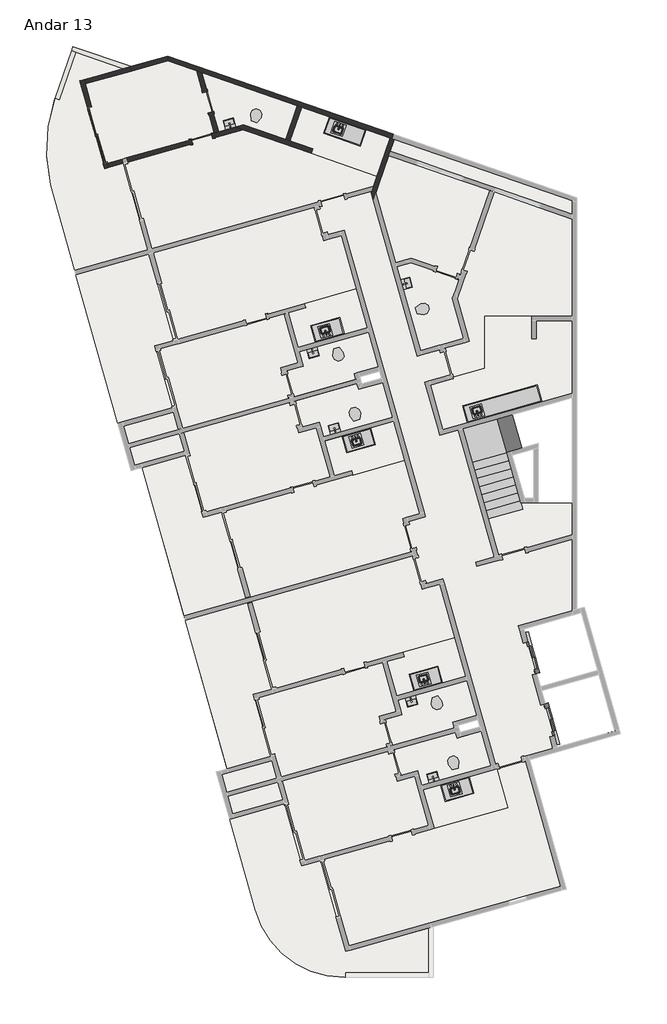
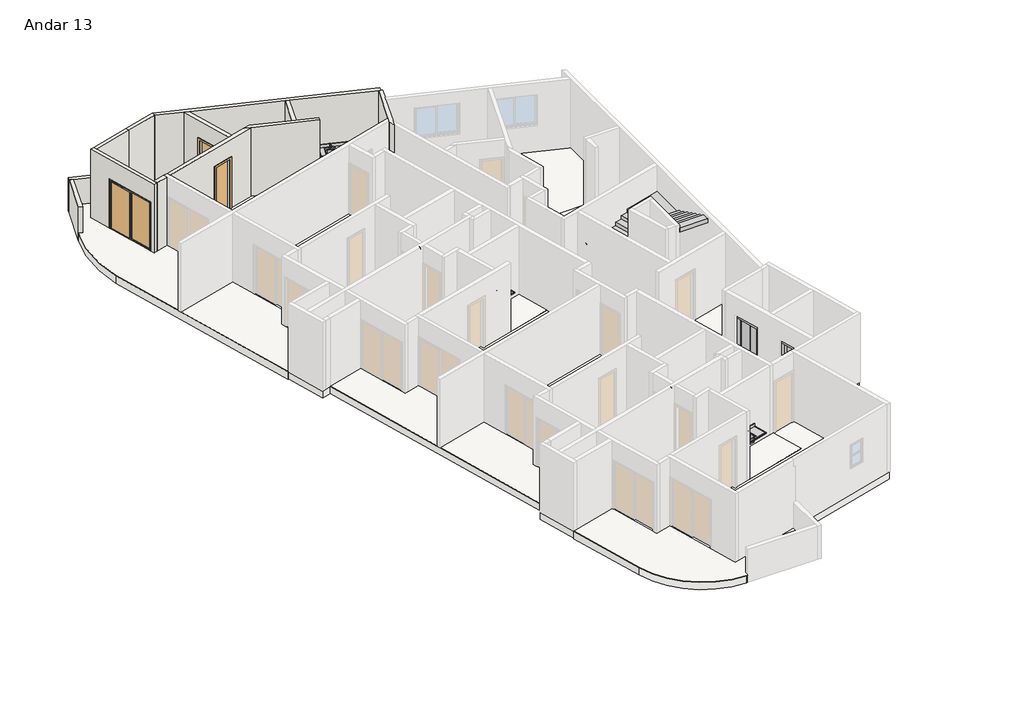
# One storey, part 3 of 3: 18 flow terminals, 18 slabs, 12 walls, 8 proxies, 3 doors, 1 stair flight.
"""IFC4 building model written with IfcOpenShell, lengths in millimetres."""

from ifc_helpers import new_model, si_unit, point, frame, frame_2d, origin, place, context, project, spatial, polyline, circle_curve, trimmed, segment, composite_curve, outline, extrude, faceted_brep, transform, mapped, element, save
from components import specialty_equipment_6c35da8b, specialty_equipment_77dfa124, rf_bancada_cozinha_rf_bancada_cozinha_340fef9f, rf_bancada_cozinha_rf_bancada_cozinha_cfb88ba1, rf_bancada_cozinha_rf_bancada_cozinha_2f873929, rf_bancada_cozinha_rf_bancada_cozinha_798ceddf, p3_70cm_ef4d15e3, p3_70cm_0a698c7c, p4_correr_200cm_eaaa0877, flow_terminal_cab7bae2, flow_terminal_3fb7dc42, flow_terminal_e42b9071, flow_terminal_c6e042c4, ap_01_creme_cr37_13e02e03, ap_01_creme_cr37_5ce6e54d

model = new_model("IFC4")

# Units and contexts
model_context = context("Model", 3, world=origin())
ifc_project = project(units=[si_unit("LENGTHUNIT", "METRE", prefix="MILLI")], contexts=[model_context])

# Site, building, storey
site = spatial("IfcSite", under=ifc_project)
building = spatial("IfcBuilding", under=site)
storey = spatial("IfcBuildingStorey", under=building, Name="Andar 13", Elevation=88450.0)

# Proxies
placement = place(None, origin())
specialty_equipment_shape = specialty_equipment_6c35da8b(model_context)
element("IfcBuildingElementProxy", 1, Name="Porta do elevador : Porta do elevador", ObjectType="Porta do elevador : Porta do elevador", at=placement, inside=storey, context=model_context, shape_type="MappedRepresentation", body=[
    mapped(specialty_equipment_shape, transform((-76594.4337486, 15747.4543727, 88450.0), x_axis=(0.27176796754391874, -0.9623628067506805, 0.0), y_axis=(0.9623628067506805, 0.27176796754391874, 0.0), z_axis=(0.0, 0.0, 1.0))),
])
specialty_equipment_2_shape = specialty_equipment_77dfa124(model_context)
element("IfcBuildingElementProxy", 2, Name="Porta do elevador : Porta do elevador", ObjectType="Porta do elevador : Porta do elevador", at=placement, inside=storey, context=model_context, shape_type="MappedRepresentation", body=[
    mapped(specialty_equipment_2_shape, transform((-75942.1906265, 13437.7836365, 88450.0), x_axis=(-0.27176796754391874, 0.9623628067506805, 0.0), y_axis=(-0.9623628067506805, -0.27176796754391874, 0.0), z_axis=(0.0, 0.0, 1.0))),
])
rf_bancada_cozinha_rf_bancada_cozinha_shape = rf_bancada_cozinha_rf_bancada_cozinha_340fef9f(model_context)
element("IfcBuildingElementProxy", 3, Name="RF_Bancada Cozinha : RF_Bancada Cozinha", ObjectType="RF_Bancada Cozinha : RF_Bancada Cozinha", at=placement, inside=storey, context=model_context, shape_type="MappedRepresentation", body=[
    mapped(rf_bancada_cozinha_rf_bancada_cozinha_shape, transform((-82760.548019, 26451.5820971, 89200.0), x_axis=(-0.9623628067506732, -0.27176796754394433, 0.0), y_axis=(0.27176796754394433, -0.9623628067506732, 0.0), z_axis=(0.0, 0.0, 1.0))),
])
element("IfcBuildingElementProxy", 4, Name="RF_Bancada Cozinha : RF_Bancada Cozinha", ObjectType="RF_Bancada Cozinha : RF_Bancada Cozinha", at=placement, inside=storey, context=model_context, shape_type="MappedRepresentation", body=[
    mapped(rf_bancada_cozinha_rf_bancada_cozinha_shape, transform((-79472.1556117, 14806.9921354, 89200.0), x_axis=(-0.962362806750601, -0.2717679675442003, 0.0), y_axis=(0.2717679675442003, -0.962362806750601, 0.0), z_axis=(0.0, 0.0, 1.0))),
])
rf_bancada_cozinha_rf_bancada_cozinha_2_shape = rf_bancada_cozinha_rf_bancada_cozinha_cfb88ba1(model_context)
element("IfcBuildingElementProxy", 5, Name="RF_Bancada Cozinha : RF_Bancada Cozinha", ObjectType="RF_Bancada Cozinha : RF_Bancada Cozinha", at=placement, inside=storey, context=model_context, shape_type="MappedRepresentation", body=[
    mapped(rf_bancada_cozinha_rf_bancada_cozinha_2_shape, transform((-81877.3021245, 23323.9029751, 89200.0), x_axis=(-0.9623628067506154, -0.27176796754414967, 0.0), y_axis=(0.27176796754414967, -0.9623628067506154, 0.0), z_axis=(0.0, 0.0, 1.0))),
])
element("IfcBuildingElementProxy", 6, Name="RF_Bancada Cozinha : RF_Bancada Cozinha", ObjectType="RF_Bancada Cozinha : RF_Bancada Cozinha", at=placement, inside=storey, context=model_context, shape_type="MappedRepresentation", body=[
    mapped(rf_bancada_cozinha_rf_bancada_cozinha_2_shape, transform((-78588.9097172, 11679.3130134, 89200.0), x_axis=(-0.9623628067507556, -0.27176796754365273, 0.0), y_axis=(0.27176796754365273, -0.9623628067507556, 0.0), z_axis=(0.0, 0.0, 1.0))),
])
rf_bancada_cozinha_rf_bancada_cozinha_3_shape = rf_bancada_cozinha_rf_bancada_cozinha_2f873929(model_context)
element("IfcBuildingElementProxy", 7, Name="RF_Bancada Cozinha : RF_Bancada Cozinha", ObjectType="RF_Bancada Cozinha : RF_Bancada Cozinha", at=placement, inside=storey, context=model_context, shape_type="MappedRepresentation", body=[
    mapped(rf_bancada_cozinha_rf_bancada_cozinha_3_shape, transform((-82030.0326121, 33293.9830661, 89200.0), x_axis=(-0.9449109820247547, 0.32732741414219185, 0.0), y_axis=(-0.32732741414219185, -0.9449109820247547, 0.0), z_axis=(0.0, 0.0, 1.0))),
])
rf_bancada_cozinha_rf_bancada_cozinha_4_shape = rf_bancada_cozinha_rf_bancada_cozinha_798ceddf(model_context)
element("IfcBuildingElementProxy", 8, Name="RF_Bancada Cozinha : RF_Bancada Cozinha", ObjectType="RF_Bancada Cozinha : RF_Bancada Cozinha", at=placement, inside=storey, context=model_context, shape_type="MappedRepresentation", body=[
    mapped(rf_bancada_cozinha_rf_bancada_cozinha_4_shape, transform((-76157.6622331, 24197.9763092, 89200.0), x_axis=(-0.9623628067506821, -0.27176796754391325, 0.0), y_axis=(0.27176796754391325, -0.9623628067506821, 0.0), z_axis=(0.0, 0.0, 1.0))),
])

# Doors
p3_70cm_shape = p3_70cm_ef4d15e3(model_context)
element("IfcDoor", 9, ObjectType="M_Folha única1 : P3 - 70CM", at=placement, inside=storey, context=model_context, shape_type="MappedRepresentation", body=[
    mapped(p3_70cm_shape, transform((-87513.806232, 32980.5300491, 88450.0), x_axis=(0.9623628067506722, 0.2717679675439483, 0.0), y_axis=(-0.2717679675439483, 0.9623628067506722, 0.0), z_axis=(0.0, 0.0, 1.0))),
])
p3_70cm_2_shape = p3_70cm_0a698c7c(model_context)
element("IfcDoor", 10, ObjectType="M_Folha única1 : P3 - 70CM", at=placement, inside=storey, context=model_context, shape_type="MappedRepresentation", body=[
    mapped(p3_70cm_2_shape, transform((-87314.304722, 34205.8663896, 88450.0), x_axis=(-0.2717679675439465, 0.9623628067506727, 0.0), y_axis=(-0.9623628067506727, -0.2717679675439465, 0.0), z_axis=(0.0, 0.0, 1.0))),
])
p4_correr_200cm_shape = p4_correr_200cm_eaaa0877(model_context)
element("IfcDoor", 11, ObjectType="Porta de correr dupla envidraçada sem revestimento : P4 - CORRER - 200CM", at=placement, inside=storey, context=model_context, shape_type="MappedRepresentation", body=[
    mapped(p4_correr_200cm_shape, transform((-91005.8131296, 33111.4415743, 88450.0), x_axis=(0.2717679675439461, -0.9623628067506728, 0.0), y_axis=(0.9623628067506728, 0.2717679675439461, 0.0), z_axis=(0.0, 0.0, 1.0))),
])

# Flow terminals
flow_terminal_shape = flow_terminal_cab7bae2(model_context)
element("IfcFlowTerminal", 12, ObjectType="RF_Pias : Pia da Bancada", at=placement, inside=storey, context=model_context, shape_type="MappedRepresentation", body=[
    mapped(flow_terminal_shape, transform((-83380.5102831, 26570.4992214, 88302.9), x_axis=(-0.9623628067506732, -0.27176796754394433, 0.0), y_axis=(0.27176796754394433, -0.9623628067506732, 0.0), z_axis=(0.0, 0.0, 1.0))),
])
element("IfcFlowTerminal", 13, ObjectType="RF_Pias : Pia da Bancada", at=placement, inside=storey, context=model_context, shape_type="MappedRepresentation", body=[
    mapped(flow_terminal_shape, transform((-80092.1178758, 14925.9092597, 88302.9), x_axis=(-0.962362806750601, -0.2717679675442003, 0.0), y_axis=(0.2717679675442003, -0.962362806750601, 0.0), z_axis=(0.0, 0.0, 1.0))),
])
element("IfcFlowTerminal", 14, ObjectType="RF_Pias : Pia da Bancada", at=placement, inside=storey, context=model_context, shape_type="MappedRepresentation", body=[
    mapped(flow_terminal_shape, transform((-78306.8185143, 23885.0542694, 88302.9), x_axis=(-0.9623628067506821, -0.27176796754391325, 0.0), y_axis=(0.27176796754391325, -0.9623628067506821, 0.0), z_axis=(0.0, 0.0, 1.0))),
])
flow_terminal_2_shape = flow_terminal_3fb7dc42(model_context)
element("IfcFlowTerminal", 15, ObjectType="Deca_Cuba de Apoio Retangular_L7300 : L.7300.17_Branco Gelo GE17", at=placement, inside=storey, context=model_context, shape_type="MappedRepresentation", body=[
    mapped(flow_terminal_2_shape, transform((-83090.0822283, 23308.7374016, 89200.0), x_axis=(-0.9623628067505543, -0.2717679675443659, 0.0), y_axis=(0.2717679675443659, -0.9623628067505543, 0.0), z_axis=(0.0, 0.0, 1.0))),
])
element("IfcFlowTerminal", 16, ObjectType="Deca_Cuba de Apoio Retangular_L7300 : L.7300.17_Branco Gelo GE17", at=placement, inside=storey, context=model_context, shape_type="MappedRepresentation", body=[
    mapped(flow_terminal_2_shape, transform((-79801.689821, 11664.1474399, 89200.0), x_axis=(-0.9623628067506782, -0.2717679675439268, 0.0), y_axis=(0.2717679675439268, -0.9623628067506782, 0.0), z_axis=(0.0, 0.0, 1.0))),
])
element("IfcFlowTerminal", 17, ObjectType="Deca_Cuba de Apoio Retangular_L7300 : L.7300.17_Branco Gelo GE17", at=placement, inside=storey, context=model_context, shape_type="MappedRepresentation", body=[
    mapped(flow_terminal_2_shape, transform((-80677.0991462, 28154.8020678, 89200.0), x_axis=(-0.2717679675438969, 0.9623628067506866, 0.0), y_axis=(-0.9623628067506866, -0.2717679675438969, 0.0), z_axis=(0.0, 0.0, 1.0))),
])
element("IfcFlowTerminal", 18, ObjectType="Deca_Cuba de Apoio Retangular_L7300 : L.7300.17_Branco Gelo GE17", at=placement, inside=storey, context=model_context, shape_type="MappedRepresentation", body=[
    mapped(flow_terminal_2_shape, transform((-86597.4204814, 33488.7004496, 89200.0), x_axis=(-0.9623628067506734, -0.27176796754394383, 0.0), y_axis=(0.27176796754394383, -0.9623628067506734, 0.0), z_axis=(0.0, 0.0, 1.0))),
])
flow_terminal_3_shape = flow_terminal_e42b9071(model_context)
element("IfcFlowTerminal", 19, ObjectType="Deca_Cuba de Apoio Retangular_L7300 : L.7300.17_Branco Gelo GE17", at=placement, inside=storey, context=model_context, shape_type="MappedRepresentation", body=[
    mapped(flow_terminal_3_shape, transform((-83802.1143033, 25830.1279553, 89200.0), x_axis=(-0.9623628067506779, -0.2717679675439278, 0.0), y_axis=(0.2717679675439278, -0.9623628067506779, 0.0), z_axis=(0.0, 0.0, 1.0))),
])
element("IfcFlowTerminal", 20, ObjectType="Deca_Cuba de Apoio Retangular_L7300 : L.7300.17_Branco Gelo GE17", at=placement, inside=storey, context=model_context, shape_type="MappedRepresentation", body=[
    mapped(flow_terminal_3_shape, transform((-80513.721896, 14185.5379936, 89200.0), x_axis=(-0.962362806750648, -0.27176796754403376, 0.0), y_axis=(0.27176796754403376, -0.962362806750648, 0.0), z_axis=(0.0, 0.0, 1.0))),
])
flow_terminal_4_shape = flow_terminal_c6e042c4(model_context)
element("IfcFlowTerminal", 21, ObjectType="RF_Pias : Pia da Bancada", at=placement, inside=storey, context=model_context, shape_type="MappedRepresentation", body=[
    mapped(flow_terminal_4_shape, transform((-82343.483233, 22898.2626745, 88302.9), x_axis=(-0.9623628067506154, -0.27176796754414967, 0.0), y_axis=(0.27176796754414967, -0.9623628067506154, 0.0), z_axis=(0.0, 0.0, 1.0))),
])
element("IfcFlowTerminal", 22, ObjectType="RF_Pias : Pia da Bancada", at=placement, inside=storey, context=model_context, shape_type="MappedRepresentation", body=[
    mapped(flow_terminal_4_shape, transform((-79055.0908257, 11253.6727129, 88302.9), x_axis=(-0.9623628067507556, -0.27176796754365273, 0.0), y_axis=(0.27176796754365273, -0.9623628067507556, 0.0), z_axis=(0.0, 0.0, 1.0))),
])
element("IfcFlowTerminal", 23, ObjectType="RF_Pias : Pia da Bancada", at=placement, inside=storey, context=model_context, shape_type="MappedRepresentation", body=[
    mapped(flow_terminal_4_shape, transform((-82939.3392028, 33309.5545572, 88302.9), x_axis=(-0.9449109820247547, 0.32732741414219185, 0.0), y_axis=(-0.32732741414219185, -0.9449109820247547, 0.0), z_axis=(0.0, 0.0, 1.0))),
])
ap_01_creme_cr37_shape = ap_01_creme_cr37_13e02e03(model_context)
element("IfcFlowTerminal", 24, ObjectType="Deca_Shared_Assento_P.900 : AP.01_Creme CR37", at=placement, inside=storey, context=model_context, shape_type="MappedRepresentation", body=[
    mapped(ap_01_creme_cr37_shape, transform((-83017.5301151, 25983.4740486, 88837.8723674), x_axis=(0.9623628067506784, 0.2717679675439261, 0.0), y_axis=(0.0, 0.0, 1.0), z_axis=(0.2717679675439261, -0.9623628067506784, 0.0))),
])
element("IfcFlowTerminal", 25, ObjectType="Deca_Shared_Assento_P.900 : AP.01_Creme CR37", at=placement, inside=storey, context=model_context, shape_type="MappedRepresentation", body=[
    mapped(ap_01_creme_cr37_shape, transform((-79729.1377078, 14338.8840869, 88837.8723674), x_axis=(0.962362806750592, 0.2717679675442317, 0.0), y_axis=(0.0, 0.0, 1.0), z_axis=(0.2717679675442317, -0.962362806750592, 0.0))),
])
element("IfcFlowTerminal", 26, ObjectType="Deca_Shared_Assento_P.900 : AP.01_Creme CR37", at=placement, inside=storey, context=model_context, shape_type="MappedRepresentation", body=[
    mapped(ap_01_creme_cr37_shape, transform((-80349.5164684, 27236.3600819, 88837.8723674), x_axis=(-0.271767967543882, 0.9623628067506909, 0.0), y_axis=(0.0, 0.0, 1.0), z_axis=(0.9623628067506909, 0.271767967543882, 0.0))),
])
element("IfcFlowTerminal", 27, ObjectType="Deca_Shared_Assento_P.900 : AP.01_Creme CR37", at=placement, inside=storey, context=model_context, shape_type="MappedRepresentation", body=[
    mapped(ap_01_creme_cr37_shape, transform((-85777.8760768, 33566.4131555, 88837.8723674), x_axis=(-0.9449109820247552, 0.3273274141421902, 0.0), y_axis=(0.0, 0.0, 1.0000000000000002), z_axis=(0.3273274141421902, 0.9449109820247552, 0.0))),
])
ap_01_creme_cr37_2_shape = ap_01_creme_cr37_5ce6e54d(model_context)
element("IfcFlowTerminal", 28, ObjectType="Deca_Shared_Assento_P.900 : AP.01_Creme CR37", at=placement, inside=storey, context=model_context, shape_type="MappedRepresentation", body=[
    mapped(ap_01_creme_cr37_2_shape, transform((-82341.1813229, 23588.4422577, 88837.8723674), x_axis=(0.9623628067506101, 0.27176796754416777, 0.0), y_axis=(0.0, 0.0, -1.0), z_axis=(-0.27176796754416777, 0.9623628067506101, 0.0))),
])
element("IfcFlowTerminal", 29, ObjectType="Deca_Shared_Assento_P.900 : AP.01_Creme CR37", at=placement, inside=storey, context=model_context, shape_type="MappedRepresentation", body=[
    mapped(ap_01_creme_cr37_2_shape, transform((-79052.7889156, 11943.852296, 88837.8723674), x_axis=(0.9623628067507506, 0.2717679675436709, 0.0), y_axis=(0.0, 0.0, -1.0000000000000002), z_axis=(-0.2717679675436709, 0.9623628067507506, 0.0))),
])

# Slabs
element("IfcSlab", 30, ObjectType="TZ_Piso de Áreas Molhadas", at=placement, inside=storey, context=model_context, shape_type="SweptSolid", body=[
    extrude(outline(composite_curve([segment(polyline([(-90765.4571774, 31984.341749), (-90143.7425806, 32159.9118263), (-89328.438678, 29272.823406), (-91766.0080564, 28584.4621444), (-92573.2320087, 31442.9384962)]), True, "CONTINUOUS"), segment(trimmed(circle_curve(frame_2d((-87414.5556743, 32622.5665107)), 5291.829908), [point((-92573.2320087, 31442.9384962))], [point((-92422.0860726, 34333.7366032))], False, "CARTESIAN"), True, "CONTINUOUS"), segment(polyline([(-92422.0860726, 34333.7366032), (-92280.2794148, 34284.6132387), (-91729.7010481, 35873.9929322), (-90151.0501028, 35327.1311202), (-91594.3494784, 34919.5483093), (-90765.4571774, 31984.341749)]), True, "CONTINUOUS")], self_intersect=False)), frame((0.0, 0.0, 88450.0), z_axis=(0.0, 0.0, 1.0), x_axis=(1.0, 0.0, 0.0)), (0.0, 0.0, 1.0), 20.0),
])
element("IfcSlab", 31, ObjectType="TZ_Piso de Áreas Molhadas", at=placement, inside=storey, context=model_context, shape_type="SweptSolid", body=[
    extrude(outline(polyline([(-88472.3695802, 26241.3805647), (-89094.084177, 26065.8104874), (-88509.7830468, 23996.7304529), (-90325.6378284, 23483.9392686), (-91725.2428613, 28440.1077234), (-89287.6734828, 29128.468985), (-88472.3695802, 26241.3805647)])), frame((0.0, 0.0, 88450.0), z_axis=(0.0, 0.0, 1.0), x_axis=(1.0, 0.0, 0.0)), (0.0, 0.0, 1.0), 20.0),
])
element("IfcSlab", 32, ObjectType="TZ_Piso de Áreas Molhadas", at=placement, inside=storey, context=model_context, shape_type="SweptSolid", body=[
    extrude(outline(polyline([(-86855.3501733, 20515.3218645), (-86040.0462707, 17628.2334443), (-88109.1263052, 17043.9323141), (-89508.731338, 22000.1007688), (-88061.3659003, 22408.8318218), (-87477.0647701, 20339.7517872), (-86855.3501733, 20515.3218645)])), frame((0.0, 0.0, 88450.0), z_axis=(0.0, 0.0, 1.0), x_axis=(1.0, 0.0, 0.0)), (0.0, 0.0, 1.0), 20.0),
])
element("IfcSlab", 33, ObjectType="TZ_Piso de Áreas Molhadas", at=placement, inside=storey, context=model_context, shape_type="SweptSolid", body=[
    extrude(outline(polyline([(-78926.5637691, 28284.9851582), (-79146.9727346, 27648.7205404), (-78771.1333302, 26317.8283554), (-80214.6775403, 25910.176404), (-81004.3851492, 28706.6252933), (-80530.2499593, 28840.5194505), (-78926.5637691, 28284.9851582)])), frame((0.0, 0.0, 88450.0), z_axis=(0.0, 0.0, 1.0), x_axis=(1.0, 0.0, 0.0)), (0.0, 0.0, 1.0), 20.0),
])
element("IfcSlab", 34, ObjectType="TZ_Piso de Áreas Molhadas", at=placement, inside=storey, context=model_context, shape_type="SweptSolid", body=[
    extrude(outline(polyline([(-78070.9150345, 27060.8243598), (-76493.6479314, 27060.8243598), (-76493.6479314, 26310.8243598), (-76343.6479314, 26310.8243598), (-76343.6479314, 26910.8243598), (-75147.8282189, 26910.8243598), (-75147.8282189, 24483.4871675), (-79467.3156296, 23263.6786855), (-79888.5559793, 24755.3410359), (-79127.7601479, 24970.1871785), (-79141.3485461, 25018.3053183), (-78070.9150345, 25320.5920836), (-78070.9150345, 27060.8243598)])), frame((0.0, 0.0, 88450.0), z_axis=(0.0, 0.0, 1.0), x_axis=(1.0, 0.0, 0.0)), (0.0, 0.0, 1.0), 20.0),
])
element("IfcSlab", 35, ObjectType="TZ_Piso de Áreas Molhadas", at=placement, inside=storey, context=model_context, shape_type="SweptSolid", body=[
    extrude(outline(polyline([(-84719.4810559, 32955.6762822), (-86137.8721095, 33447.0223292), (-86956.7711455, 33215.7680402), (-87515.4733556, 35194.1992432), (-84326.6881589, 34089.5694606), (-84719.4810559, 32955.6762822)])), frame((0.0, 0.0, 88450.0), z_axis=(0.0, 0.0, 1.0), x_axis=(1.0, 0.0, 0.0)), (0.0, 0.0, 1.0), 20.0),
])
element("IfcSlab", 36, ObjectType="TZ_Piso de Áreas Molhadas", at=placement, inside=storey, context=model_context, shape_type="SweptSolid", body=[
    extrude(outline(polyline([(-84577.7444086, 32906.57717), (-84184.9515116, 34040.4703485), (-81226.8582774, 33015.7547641), (-81668.7502865, 31740.1249383), (-83870.9147351, 32502.9785914), (-83821.815623, 32644.7152387), (-84577.7444086, 32906.57717)])), frame((0.0, 0.0, 88450.0), z_axis=(0.0, 0.0, 1.0), x_axis=(1.0, 0.0, 0.0)), (0.0, 0.0, 1.0), 20.0),
])
element("IfcSlab", 37, ObjectType="TZ_Piso de Áreas Molhadas", at=placement, inside=storey, context=model_context, shape_type="SweptSolid", body=[
    extrude(outline(polyline([(-81949.8925784, 26524.6420501), (-81623.7710174, 25369.806682), (-82432.1557751, 25141.5215893), (-82377.8021816, 24949.0490279), (-84456.5058441, 24362.030218), (-84701.0970149, 25228.1567441), (-84123.6793309, 25391.2175246), (-84259.5633146, 25872.398928), (-81949.8925784, 26524.6420501)])), frame((0.0, 0.0, 88450.0), z_axis=(0.0, 0.0, 1.0), x_axis=(1.0, 0.0, 0.0)), (0.0, 0.0, 1.0), 20.0),
])
element("IfcSlab", 38, ObjectType="TZ_Piso de Áreas Molhadas", at=placement, inside=storey, context=model_context, shape_type="SweptSolid", body=[
    extrude(outline(polyline([(-84089.7975819, 27479.0039186), (-82357.5445298, 27968.1862602), (-81990.6577736, 26668.9964711), (-84300.3285098, 26016.753349), (-84626.4500708, 27171.5887171), (-84049.0323868, 27334.6494976), (-84089.7975819, 27479.0039186)])), frame((0.0, 0.0, 88450.0), z_axis=(0.0, 0.0, 1.0), x_axis=(1.0, 0.0, 0.0)), (0.0, 0.0, 1.0), 20.0),
])
element("IfcSlab", 39, ObjectType="TZ_Piso de Áreas Molhadas", at=placement, inside=storey, context=model_context, shape_type="SweptSolid", body=[
    extrude(outline(polyline([(-84171.1494782, 23351.5492709), (-84415.740649, 24217.675797), (-82337.0369864, 24804.6946069), (-82282.6833929, 24612.2220455), (-81474.2986352, 24840.5071383), (-81148.1770742, 23685.6717702), (-83457.8478104, 23033.4286481), (-83593.7317942, 23514.6100514), (-84171.1494782, 23351.5492709)])), frame((0.0, 0.0, 88450.0), z_axis=(0.0, 0.0, 1.0), x_axis=(1.0, 0.0, 0.0)), (0.0, 0.0, 1.0), 20.0),
])
element("IfcSlab", 40, ObjectType="TZ_Piso de Áreas Molhadas", at=placement, inside=storey, context=model_context, shape_type="SweptSolid", body=[
    extrude(outline(composite_curve([segment(polyline([(-79945.4990038, 5119.4122055), (-82713.5540687, 5119.4122055), (-82713.5540687, 4969.4122055), (-82751.3896972, 4969.4122055)]), True, "CONTINUOUS"), segment(trimmed(circle_curve(frame_2d((-82751.3896972, 8069.4122055)), 3100.0), [point((-82751.3896972, 4969.4122055))], [point((-85734.7143981, 7226.9315061))], False, "CARTESIAN"), True, "CONTINUOUS"), segment(polyline([(-85734.7143981, 7226.9315061), (-86588.8282733, 10251.4506708), (-84772.9735093, 10764.2419177), (-84188.6722855, 8695.1618243), (-83566.957766, 8870.7319029), (-82710.8885369, 5839.2889958), (-79945.4990038, 6620.2256515), (-79945.4990038, 5119.4122055)]), True, "CONTINUOUS")], self_intersect=False)), frame((0.0, 0.0, 88450.0), z_axis=(0.0, 0.0, 1.0), x_axis=(1.0, 0.0, 0.0)), (0.0, 0.0, 1.0), 20.0),
])
element("IfcSlab", 41, ObjectType="TZ_Piso de Áreas Molhadas", at=placement, inside=storey, context=model_context, shape_type="SweptSolid", body=[
    extrude(outline(polyline([(-78185.906228, 13195.9171766), (-77859.7846669, 12041.0818085), (-80169.4554031, 11388.8386864), (-80305.3393869, 11870.0200898), (-80882.7570709, 11706.9593092), (-81127.3482417, 12573.0858353), (-79048.6445791, 13160.1046452), (-78994.2909856, 12967.6320839), (-78185.906228, 13195.9171766)])), frame((0.0, 0.0, 88450.0), z_axis=(0.0, 0.0, 1.0), x_axis=(1.0, 0.0, 0.0)), (0.0, 0.0, 1.0), 20.0),
])
element("IfcSlab", 42, ObjectType="TZ_Piso de Áreas Molhadas", at=placement, inside=storey, context=model_context, shape_type="SweptSolid", body=[
    extrude(outline(polyline([(-77307.7782946, 10638.3027935), (-79761.8034518, 9945.2944763), (-80128.690208, 11244.4842654), (-77674.6650508, 11937.4925826), (-77307.7782946, 10638.3027935)])), frame((0.0, 0.0, 88450.0), z_axis=(0.0, 0.0, 1.0), x_axis=(1.0, 0.0, 0.0)), (0.0, 0.0, 1.0), 20.0),
])
element("IfcSlab", 43, ObjectType="TZ_Piso de Áreas Molhadas", at=placement, inside=storey, context=model_context, shape_type="SweptSolid", body=[
    extrude(outline(polyline([(-81107.9410005, 23543.1910314), (-80740.5251229, 22242.1275601), (-82472.778175, 21752.9452185), (-82513.5433702, 21897.2996395), (-83090.9610542, 21734.238859), (-83418.0192411, 22888.8089065), (-81107.9410005, 23543.1910314)])), frame((0.0, 0.0, 88450.0), z_axis=(0.0, 0.0, 1.0), x_axis=(1.0, 0.0, 0.0)), (0.0, 0.0, 1.0), 20.0),
])
element("IfcSlab", 44, ObjectType="TZ_Piso de Áreas Molhadas", at=placement, inside=storey, context=model_context, shape_type="SweptSolid", body=[
    extrude(outline(polyline([(-85183.9771729, 14596.790603), (-85805.6917697, 14421.2205257), (-85221.3906395, 12352.1404912), (-86668.7560772, 11943.4094383), (-88068.36111, 16899.5778931), (-85999.2810755, 17483.8790233), (-85183.9771729, 14596.790603)])), frame((0.0, 0.0, 88450.0), z_axis=(0.0, 0.0, 1.0), x_axis=(1.0, 0.0, 0.0)), (0.0, 0.0, 1.0), 20.0),
])
element("IfcSlab", 45, ObjectType="TZ_Piso de Áreas Molhadas", at=placement, inside=storey, context=model_context, shape_type="SweptSolid", body=[
    extrude(outline(polyline([(-81412.7046076, 13583.5667824), (-80835.2869236, 13746.6275629), (-80971.1709074, 14227.8089663), (-78661.5001712, 14880.0520884), (-78335.3786101, 13725.2167203), (-79143.7633678, 13496.9316276), (-79089.4097743, 13304.4590662), (-81168.1134368, 12717.4402563), (-81412.7046076, 13583.5667824)])), frame((0.0, 0.0, 88450.0), z_axis=(0.0, 0.0, 1.0), x_axis=(1.0, 0.0, 0.0)), (0.0, 0.0, 1.0), 20.0),
])
element("IfcSlab", 46, ObjectType="TZ_Piso de Áreas Molhadas", at=placement, inside=storey, context=model_context, shape_type="SweptSolid", body=[
    extrude(outline(polyline([(-78701.7362448, 15022.5328272), (-81012.8731576, 14371.8995868), (-81338.0576635, 15526.9987554), (-80760.6399795, 15690.059536), (-80801.4051746, 15834.413957), (-79069.1521225, 16323.5962985), (-78701.7362448, 15022.5328272)])), frame((0.0, 0.0, 88450.0), z_axis=(0.0, 0.0, 1.0), x_axis=(1.0, 0.0, 0.0)), (0.0, 0.0, 1.0), 20.0),
])
element("IfcSlab", 47, ObjectType="TZ_Laje 30cm", at=placement, inside=storey, context=model_context, shape_type="SweptSolid", body=[
    extrude(outline(composite_curve([segment(polyline([(-82713.5540687, 4969.4122055), (-82751.3896972, 4969.4122055)]), True, "CONTINUOUS"), segment(trimmed(circle_curve(frame_2d((-82751.3896972, 8069.4122055)), 3100.0), [point((-82751.3896972, 4969.4122055))], [point((-85734.7143981, 7226.9315061))], False, "CARTESIAN"), True, "CONTINUOUS"), segment(polyline([(-85734.7143981, 7226.9315061), (-86588.8282747, 10251.4506758), (-86574.3928326, 10255.5271953), (-87018.7334595, 11828.9903844), (-86664.6795577, 11928.9739962), (-89512.8078575, 22014.5362109), (-89866.8617594, 21914.5525991), (-90311.2023863, 23488.0157882), (-90325.6378284, 23483.9392686), (-92573.2320087, 31442.9384962)]), True, "CONTINUOUS"), segment(trimmed(circle_curve(frame_2d((-87414.5556743, 32622.5665107)), 5291.829908), [point((-92573.2320087, 31442.9384962))], [point((-92426.4466323, 34320.9224218))], False, "CARTESIAN"), True, "CONTINUOUS"), segment(polyline([(-92426.4466323, 34320.9224218), (-92422.0160621, 34333.7123509), (-92403.1178425, 34327.1658026), (-91809.986912, 36039.3839237), (-89899.2062586, 35377.468778), (-88658.6666899, 35727.7929124), (-75017.8282189, 31002.4584964), (-75017.8282189, 17238.3098681), (-74750.7083414, 17313.7436086), (-73565.8000029, 13117.8417711), (-76592.4310301, 12263.1315132), (-75369.6745845, 7933.2050117), (-79815.4990038, 6677.7193903), (-79815.4990038, 4989.4122055), (-82713.5540687, 4989.4122055), (-82713.5540687, 4969.4122055)]), True, "CONTINUOUS")], self_intersect=False), holes=[polyline([(-81583.0058223, 25225.452261), (-82247.0361589, 25037.9323634), (-82179.094167, 24797.3416617), (-81515.0638304, 24984.8615593), (-81583.0058223, 25225.452261)]), polyline([(-78294.613415, 13580.8622993), (-78958.6437516, 13393.3424017), (-78890.7017597, 13152.7517), (-78226.6714231, 13340.2715976), (-78294.613415, 13580.8622993)]), polyline([(-74840.4856705, 17153.3066079), (-76760.3994699, 16611.1295126), (-76221.8794944, 14704.1660107), (-75646.150803, 12665.442005), (-73726.2370035, 13207.6191002), (-74270.7319215, 15135.7405865), (-74840.4856705, 17153.3066079)]), polyline([(-77952.9130698, 20291.1915783), (-76801.2963825, 20616.4041949), (-76858.5413412, 20819.1154254), (-75147.8282189, 20819.1154254), (-75147.8282189, 24343.0530162), (-78807.9060206, 23309.4595541), (-77952.9130698, 20291.1915783)])]), frame((0.0, 0.0, 88150.0), z_axis=(0.0, 0.0, 1.0), x_axis=(1.0, 0.0, 0.0)), (0.0, 0.0, 1.0), 300.0),
])

# Stair flight
element("IfcStairFlight", 48, ObjectType="Profundidade de 150mm", at=placement, inside=storey, context=model_context, shape_type="Brep", body=[
    faceted_brep([(-78029.0944782, 20560.1246789, 88588.0952381), (-77952.7808761, 20290.7249124, 88588.0952381), (-76802.2714069, 20616.6328483, 88588.0952381), (-76878.3664628, 20886.0945229, 88588.0952381), (-78029.0944782, 20560.1246789, 88450.0), (-77952.7808761, 20290.7249124, 88450.0), (-76802.2714069, 20616.6328483, 88450.0), (-76878.3664628, 20886.0945229, 88450.0), (-78105.4080802, 20829.5244453, 88726.1904762), (-78029.0944782, 20560.1246789, 88726.1904762), (-76878.3664628, 20886.0945229, 88726.1904762), (-76954.4615188, 21155.5561975, 88726.1904762), (-78105.4080802, 20829.5244453, 88558.939228), (-78045.2065482, 20617.0029783, 88450.0), (-76894.4323913, 20942.985893, 88450.0), (-76954.4615188, 21155.5561975, 88558.939228), (-78181.7216823, 21098.9242117, 88864.2857143), (-78105.4080802, 20829.5244453, 88864.2857143), (-76954.4615188, 21155.5561975, 88864.2857143), (-77030.5565747, 21425.017872, 88864.2857143), (-78181.7216823, 21098.9242117, 88697.0344661), (-77030.5565747, 21425.017872, 88697.0344661), (-78258.0352843, 21368.3239781, 89002.3809524), (-78181.7216823, 21098.9242117, 89002.3809524), (-77030.5565747, 21425.017872, 89002.3809524), (-77106.6516307, 21694.4795466, 89002.3809524), (-78258.0352843, 21368.3239781, 88835.1297042), (-77106.6516307, 21694.4795466, 88835.1297042), (-78334.3488864, 21637.7237445, 89140.4761905), (-78258.0352843, 21368.3239781, 89140.4761905), (-77106.6516307, 21694.4795466, 89140.4761905), (-77182.7466866, 21963.9412211, 89140.4761905), (-78334.3488864, 21637.7237445, 88973.2249423), (-77182.7466866, 21963.9412211, 88973.2249423), (-78410.6624885, 21907.1235109, 89278.5714286), (-78334.3488864, 21637.7237445, 89278.5714286), (-77182.7466866, 21963.9412211, 89278.5714286), (-77258.8417426, 22233.4028957, 89278.5714286), (-78410.6624885, 21907.1235109, 89111.3201804), (-77258.8417426, 22233.4028957, 89111.3201804), (-78486.9760905, 22176.5232773, 89416.6666667), (-78410.6624885, 21907.1235109, 89416.6666667), (-77258.8417426, 22233.4028957, 89416.6666667), (-77334.9367985, 22502.8645702, 89416.6666667), (-78486.9760905, 22176.5232773, 89249.4154185), (-77334.9367985, 22502.8645702, 89249.4154185), (-77650.6473278, 23620.8332322, 89554.7619048), (-78803.8582924, 23295.1703972, 89554.7619048), (-78572.8230038, 22479.5772253, 89554.7619048), (-78486.9760905, 22176.5232773, 89554.7619048), (-77334.9367985, 22502.8645702, 89554.7619048), (-77337.6544782, 22512.4881983, 89554.7619048), (-77650.6473278, 23620.8332322, 89404.7619048), (-78803.8582924, 23295.1703972, 89404.7619048), (-78572.8230038, 22479.5772253, 89404.7619048), (-77420.5378643, 22805.9881601, 89404.7619048), (-77337.6544782, 22512.4881983, 89404.7619048), (-77650.6473278, 23620.8332322, 89692.8571429), (-77337.6544782, 22512.4881983, 89692.8571429), (-77303.5536842, 22522.118146, 89692.8571429), (-77083.6709973, 22584.2122653, 89692.8571429), (-77396.6638468, 23692.5572992, 89692.8571429), (-77616.5465338, 23630.4631799, 89692.8571429), (-77396.6638468, 23692.5572992, 89519.0904432), (-77616.5465338, 23630.4631799, 89404.7619048), (-77303.5536842, 22522.118146, 89404.7619048), (-77083.6709973, 22584.2122653, 89519.0904432), (-77127.202261, 23768.6523301, 89830.952381), (-77396.6638468, 23692.5572992, 89830.952381), (-77083.6709973, 22584.2122653, 89830.952381), (-76814.2094114, 22660.3072962, 89830.952381), (-77127.202261, 23768.6523301, 89659.1976509), (-76814.2094114, 22660.3072962, 89659.1976509), (-76857.7406751, 23844.747361, 89969.047619), (-77127.202261, 23768.6523301, 89969.047619), (-76814.2094114, 22660.3072962, 89969.047619), (-76544.7478255, 22736.4023271, 89969.047619), (-76857.7406751, 23844.747361, 89799.3048586), (-76544.7478255, 22736.4023271, 89799.3048586), (-76588.2790892, 23920.842392, 90107.1428571), (-76857.7406751, 23844.747361, 90107.1428571), (-76544.7478255, 22736.4023271, 90107.1428571), (-76275.2862396, 22812.497358, 90107.1428571), (-76588.2790892, 23920.842392, 89939.4120663), (-75975.593386, 22897.1295956, 90095.2380952), (-76275.2862396, 22812.497358, 90095.2380952), (-75147.8282189, 22779.1154254, 90245.2380952), (-75147.8282189, 24327.6207947, 90245.2380952), (-76288.5862355, 24005.4746296, 90245.2380952), (-76588.2790892, 23920.842392, 90245.2380952), (-76275.2862396, 22812.497358, 90245.2380952), (-76275.2862396, 22779.1154254, 90245.2380952), (-75147.8282189, 22779.1154254, 90095.2380952), (-75147.8282189, 24327.6207947, 90095.2380952), (-76288.5862355, 24005.4746296, 90095.2380952), (-76275.2862396, 22779.1154254, 90095.2380952), (-75147.8282189, 22779.1154254, 90383.3333333), (-76275.2862396, 22779.1154254, 90383.3333333), (-76275.2862396, 22744.1370326, 90383.3333333), (-76275.2862396, 22499.1154254, 90383.3333333), (-75147.8282189, 22499.1154254, 90383.3333333), (-75147.8282189, 22744.1370326, 90383.3333333), (-75147.8282189, 22499.1154254, 90216.0820852), (-75147.8282189, 22744.1370326, 90095.2380952), (-76275.2862396, 22744.1370326, 90095.2380952), (-76275.2862396, 22499.1154254, 90216.0820852), (-75147.8282189, 22219.1154254, 90521.4285714), (-75147.8282189, 22499.1154254, 90521.4285714), (-76275.2862396, 22499.1154254, 90521.4285714), (-76275.2862396, 22219.1154254, 90521.4285714), (-75147.8282189, 22219.1154254, 90354.1773233), (-76275.2862396, 22219.1154254, 90354.1773233), (-75147.8282189, 21939.1154254, 90659.5238095), (-75147.8282189, 22219.1154254, 90659.5238095), (-76275.2862396, 22219.1154254, 90659.5238095), (-76275.2862396, 21939.1154254, 90659.5238095), (-75147.8282189, 21939.1154254, 90492.2725614), (-76275.2862396, 21939.1154254, 90492.2725614), (-75147.8282189, 21659.1154254, 90797.6190476), (-75147.8282189, 21939.1154254, 90797.6190476), (-76275.2862396, 21939.1154254, 90797.6190476), (-76275.2862396, 21659.1154254, 90797.6190476), (-75147.8282189, 21659.1154254, 90630.3677995), (-76275.2862396, 21659.1154254, 90630.3677995), (-75147.8282189, 21379.1154254, 90935.7142857), (-75147.8282189, 21659.1154254, 90935.7142857), (-76275.2862396, 21659.1154254, 90935.7142857), (-76275.2862396, 21379.1154254, 90935.7142857), (-75147.8282189, 21379.1154254, 90768.4630376), (-76275.2862396, 21379.1154254, 90768.4630376), (-75147.8282189, 21099.1154254, 91073.8095238), (-75147.8282189, 21379.1154254, 91073.8095238), (-76275.2862396, 21379.1154254, 91073.8095238), (-76275.2862396, 21099.1154254, 91073.8095238), (-75147.8282189, 21099.1154254, 90906.5582757), (-76275.2862396, 21099.1154254, 90906.5582757), (-75147.8282189, 20819.1154254, 91211.9047619), (-75147.8282189, 21099.1154254, 91211.9047619), (-76275.2862396, 21099.1154254, 91211.9047619), (-76275.2862396, 20819.1154254, 91211.9047619), (-75147.8282189, 20819.1154254, 91044.6535138), (-76275.2862396, 20819.1154254, 91044.6535138), (-76275.2862396, 23958.3777566, 90095.2380952)], [[[0, 1, 2, 3]], [[1, 0, 4, 5]], [[2, 1, 5, 6]], [[3, 2, 6, 7]], [[8, 9, 10, 11]], [[4, 0, 9, 8, 12, 13]], [[0, 3, 10, 9]], [[3, 7, 14, 15, 11, 10]], [[16, 17, 18, 19]], [[17, 16, 20, 12, 8]], [[8, 11, 18, 17]], [[19, 18, 11, 15, 21]], [[22, 23, 24, 25]], [[23, 22, 26, 20, 16]], [[16, 19, 24, 23]], [[25, 24, 19, 21, 27]], [[28, 29, 30, 31]], [[29, 28, 32, 26, 22]], [[22, 25, 30, 29]], [[31, 30, 25, 27, 33]], [[34, 35, 36, 37]], [[35, 34, 38, 32, 28]], [[28, 31, 36, 35]], [[37, 36, 31, 33, 39]], [[40, 41, 42, 43]], [[41, 40, 44, 38, 34]], [[34, 37, 42, 41]], [[43, 42, 37, 39, 45]], [[46, 47, 48, 49, 50, 51]], [[47, 46, 52, 53]], [[40, 49, 48, 47, 53, 54, 44]], [[40, 43, 50, 49]], [[51, 50, 43, 45, 55, 56]], [[57, 58, 59, 60, 61, 62]], [[46, 57, 62, 61, 63, 64, 52]], [[46, 51, 58, 57]], [[58, 51, 56, 65, 66, 60, 59]], [[67, 68, 69, 70]], [[68, 67, 71, 63, 61]], [[61, 60, 69, 68]], [[70, 69, 60, 66, 72]], [[73, 74, 75, 76]], [[74, 73, 77, 71, 67]], [[67, 70, 75, 74]], [[76, 75, 70, 72, 78]], [[79, 80, 81, 82]], [[80, 79, 83, 77, 73]], [[73, 76, 81, 80]], [[82, 81, 76, 78, 84, 85]], [[86, 87, 88, 89, 90, 91]], [[87, 86, 92, 93]], [[79, 89, 88, 87, 93, 94, 83]], [[79, 82, 90, 89]], [[91, 90, 82, 85, 95]], [[96, 97, 98, 99, 100, 101]], [[86, 96, 101, 100, 102, 103, 92]], [[86, 91, 97, 96]], [[97, 91, 95, 104, 105, 99, 98]], [[106, 107, 108, 109]], [[107, 106, 110, 102, 100]], [[100, 99, 108, 107]], [[109, 108, 99, 105, 111]], [[112, 113, 114, 115]], [[113, 112, 116, 110, 106]], [[106, 109, 114, 113]], [[115, 114, 109, 111, 117]], [[118, 119, 120, 121]], [[119, 118, 122, 116, 112]], [[112, 115, 120, 119]], [[121, 120, 115, 117, 123]], [[124, 125, 126, 127]], [[125, 124, 128, 122, 118]], [[118, 121, 126, 125]], [[127, 126, 121, 123, 129]], [[130, 131, 132, 133]], [[131, 130, 134, 128, 124]], [[124, 127, 132, 131]], [[133, 132, 127, 129, 135]], [[136, 137, 138, 139]], [[137, 136, 140, 134, 130]], [[130, 133, 138, 137]], [[139, 138, 133, 135, 141]], [[136, 139, 141, 140]], [[5, 4, 13, 14, 7, 6]], [[54, 55, 45, 39, 33, 27, 21, 15, 14, 13, 12, 20, 26, 32, 38, 44]], [[55, 54, 53, 52, 64, 65, 56]], [[65, 64, 63, 71, 77, 83, 94, 142, 84, 78, 72, 66]], [[142, 94, 93, 92, 103, 104, 95, 85, 84]], [[104, 103, 102, 110, 116, 122, 128, 134, 140, 141, 135, 129, 123, 117, 111, 105]]]),
])

# Walls
element("IfcWall", 49, ObjectType="Básica .15 - Externa", at=placement, inside=storey, context=model_context, shape_type="Brep", body=[
    faceted_brep([(-88662.6343714, 35591.588263, 88450.0), (-87688.240739, 35254.0477389, 88450.0), (-87515.4733556, 35194.1992432, 88450.0), (-84326.6881589, 34089.5694606, 88450.0), (-84184.9515116, 34040.4703485, 88450.0), (-81226.8582774, 33015.7547641, 88450.0), (-81156.3583355, 32991.3328194, 88450.0), (-81156.3583355, 32991.3328194, 89750.0), (-81085.1216301, 32966.655652, 89750.0), (-81085.1216301, 32966.655652, 91050.0), (-81156.3583355, 32991.3328194, 91050.0), (-81156.3583355, 32991.3328194, 91350.0), (-81226.8582774, 33015.7547641, 91350.0), (-84184.9515116, 34040.4703485, 91350.0), (-84326.6881589, 34089.5694606, 91350.0), (-87515.4733556, 35194.1992432, 91350.0), (-87688.240739, 35254.0477389, 91350.0), (-88662.6343714, 35591.588263, 91350.0), (-88658.0562773, 35748.7474739, 88450.0), (-88658.0562773, 35748.7474739, 91350.0), (-81107.2592234, 33133.0694667, 91350.0), (-81107.2592234, 33133.0694667, 91050.0), (-81036.022518, 33108.3922993, 91050.0), (-81036.022518, 33108.3922993, 89750.0), (-81107.2592234, 33133.0694667, 89750.0), (-81107.2592234, 33133.0694667, 88450.0)], [[[0, 1, 2, 3, 4, 5, 6, 7, 8, 9, 10, 11, 12, 13, 14, 15, 16, 17]], [[18, 19, 20, 21, 22, 23, 24, 25]], [[6, 5, 4, 3, 2, 1, 0, 18, 25]], [[17, 16, 15, 14, 13, 12, 11, 20, 19]], [[0, 17, 19, 18]], [[7, 6, 25, 24]], [[23, 8, 7, 24]], [[11, 10, 21, 20]], [[21, 10, 9, 22]], [[9, 8, 23, 22]]]),
])
element("IfcWall", 50, ObjectType="Básica .15 -  Interna", at=placement, inside=storey, context=model_context, shape_type="Brep", body=[
    faceted_brep([(-81789.2550074, 30934.0017027, 88450.0), (-81703.3880158, 31181.8778654, 88450.0), (-81272.8781344, 32424.6503839, 88450.0), (-81223.7790223, 32566.3870312, 88450.0), (-81085.1216301, 32966.655652, 88450.0), (-81085.1216301, 32966.655652, 89750.0), (-81085.1216301, 32966.655652, 91050.0), (-81085.1216301, 32966.655652, 91350.0), (-81223.7790223, 32566.3870312, 91350.0), (-81272.8781344, 32424.6503839, 91350.0), (-81703.3880158, 31181.8778654, 91350.0), (-81789.2550074, 30934.0017027, 91350.0), (-81860.5472267, 31186.4559595, 88450.0), (-81860.5472267, 31186.4559595, 91350.0), (-81845.4155775, 31230.1371819, 91350.0), (-81785.5670817, 31402.9045654, 91350.0), (-81226.8582774, 33015.7547641, 91350.0), (-81226.8582774, 33015.7547641, 88450.0), (-81785.5670817, 31402.9045654, 88450.0), (-81845.4155775, 31230.1371819, 88450.0), (-81156.3583355, 32991.3328194, 88450.0), (-81156.3583355, 32991.3328194, 91350.0)], [[[0, 1, 2, 3, 4, 5, 6, 7, 8, 9, 10, 11]], [[12, 13, 14, 15, 16, 17, 18, 19]], [[4, 3, 2, 1, 0, 12, 19, 18, 17, 20]], [[11, 10, 9, 8, 7, 21, 16, 15, 14, 13]], [[0, 11, 13, 12]], [[4, 20, 17, 16, 21, 7, 6, 5]]]),
])
element("IfcWall", 51, ObjectType="Básica .15 -  Interna", at=placement, inside=storey, context=model_context, shape_type="Brep", body=[
    faceted_brep([(-91449.9950574, 34960.3135045, 91350.0), (-91409.2298622, 34815.9590835, 91350.0), (-90661.8679515, 32169.4613651, 91350.0), (-90621.1027564, 32025.1069441, 91350.0), (-90621.1027564, 32025.1069441, 88450.0), (-90661.8679515, 32169.4613651, 88450.0), (-90661.8679515, 32169.4613651, 90550.0), (-91205.4038866, 34094.1869786, 90550.0), (-91205.4038866, 34094.1869786, 88450.0), (-91409.2298622, 34815.9590835, 88450.0), (-91449.9950574, 34960.3135045, 88450.0), (-90765.4571774, 31984.341749, 91350.0), (-91594.3494784, 34919.5483093, 91350.0), (-91594.3494784, 34919.5483093, 88450.0), (-91349.7583076, 34053.4217835, 88450.0), (-91349.7583076, 34053.4217835, 90550.0), (-90806.2223725, 32128.69617, 90550.0), (-90806.2223725, 32128.69617, 88450.0), (-90765.4571774, 31984.341749, 88450.0)], [[[0, 1, 2, 3, 4, 5, 6, 7, 8, 9, 10]], [[11, 12, 13, 14, 15, 16, 17, 18]], [[4, 18, 17, 5]], [[13, 10, 9, 8, 14]], [[3, 2, 1, 0, 12, 11]], [[4, 3, 11, 18]], [[16, 6, 5, 17]], [[6, 16, 15, 7]], [[7, 15, 14, 8]], [[0, 10, 13, 12]]]),
])
element("IfcWall", 52, ObjectType="Básica .15 - Externa", at=placement, inside=storey, context=model_context, shape_type="Brep", body=[
    faceted_brep([(-91871.4376954, 35923.0920443, 88150.0), (-91729.7010481, 35873.9929322, 88150.0), (-90151.0501028, 35327.1311202, 88150.0), (-90151.0501028, 35327.1311202, 89550.0), (-91729.7010481, 35873.9929322, 89550.0), (-91871.4376954, 35923.0920443, 89550.0), (-91822.3385833, 36064.8286916, 88150.0), (-91822.3385833, 36064.8286916, 89550.0), (-89898.595846, 35398.4233395, 89550.0), (-89898.595846, 35398.4233395, 88150.0)], [[[0, 1, 2, 3, 4, 5]], [[6, 7, 8, 9]], [[2, 1, 0, 6, 9]], [[5, 4, 3, 8, 7]], [[0, 5, 7, 6]], [[3, 2, 9, 8]]]),
])
element("IfcWall", 53, ObjectType="Básica .15 - Externa", at=placement, inside=storey, context=model_context, shape_type="SweptSolid", body=[
    extrude(outline(polyline([(-91729.7010481, 35873.9929322), (-92280.2794148, 34284.6132387), (-92422.0160621, 34333.7123509), (-91871.4376954, 35923.0920443), (-91729.7010481, 35873.9929322)])), frame((0.0, 0.0, 88150.0), z_axis=(0.0, 0.0, 1.0), x_axis=(1.0, 0.0, 0.0)), (0.0, 0.0, 1.0), 1400.0),
])
element("IfcWall", 54, ObjectType="Básica .15 - Externa", at=placement, inside=storey, context=model_context, shape_type="SweptSolid", body=[
    extrude(outline(polyline([(-89921.2674906, 35392.0209445), (-88658.0562773, 35748.7474739), (-88662.6343714, 35591.588263), (-89880.5022955, 35247.6665235), (-89921.2674906, 35392.0209445)])), frame((0.0, 0.0, 88450.0), z_axis=(0.0, 0.0, 1.0), x_axis=(1.0, 0.0, 0.0)), (0.0, 0.0, 1.0), 2900.0),
])
element("IfcWall", 55, ObjectType="Básica .15 -  Interna", at=placement, inside=storey, context=model_context, shape_type="Brep", body=[
    faceted_brep([(-90184.5077758, 32304.2662473, 88450.0), (-90661.8679515, 32169.4613651, 88450.0), (-90661.8679515, 32169.4613651, 90550.0), (-90661.8679515, 32169.4613651, 91350.0), (-90184.5077758, 32304.2662473, 91350.0), (-90143.7425806, 32159.9118263, 88450.0), (-90143.7425806, 32159.9118263, 90550.0), (-90143.7425806, 32159.9118263, 91350.0), (-90621.1027564, 32025.1069441, 91350.0), (-90621.1027564, 32025.1069441, 88450.0)], [[[0, 1, 2, 3, 4]], [[5, 6, 7, 8, 9]], [[1, 0, 5, 9]], [[4, 3, 8, 7]], [[0, 4, 7, 6, 5]], [[3, 2, 1, 9, 8]]]),
])
element("IfcWall", 56, ObjectType="Básica .15 -  Interna", at=placement, inside=storey, context=model_context, shape_type="SweptSolid", body=[
    extrude(outline(polyline([(-91449.9950574, 34960.3135045), (-89921.2674906, 35392.0209445), (-89880.5022955, 35247.6665235), (-91409.2298622, 34815.9590835), (-91449.9950574, 34960.3135045)])), frame((0.0, 0.0, 88450.0), z_axis=(0.0, 0.0, 1.0), x_axis=(1.0, 0.0, 0.0)), (0.0, 0.0, 1.0), 2900.0),
])
element("IfcWall", 57, ObjectType="Básica .15 -  Interna", at=placement, inside=storey, context=model_context, shape_type="Brep", body=[
    faceted_brep([(-83821.815623, 32644.7152387, 88450.0), (-84577.7444086, 32906.57717, 88450.0), (-84719.4810559, 32955.6762822, 88450.0), (-86137.8721095, 33447.0223292, 88450.0), (-86137.8721095, 33447.0223292, 91350.0), (-84719.4810559, 32955.6762822, 91350.0), (-84577.7444086, 32906.57717, 91350.0), (-83821.815623, 32644.7152387, 91350.0), (-83870.9147351, 32502.9785914, 88450.0), (-83870.9147351, 32502.9785914, 91350.0), (-86142.4502035, 33289.8631183, 91350.0), (-86390.3263662, 33375.7301099, 91350.0), (-86390.3263662, 33375.7301099, 88450.0), (-86142.4502035, 33289.8631183, 88450.0)], [[[0, 1, 2, 3, 4, 5, 6, 7]], [[8, 9, 10, 11, 12, 13]], [[3, 2, 1, 0, 8, 13, 12]], [[7, 6, 5, 4, 11, 10, 9]], [[0, 7, 9, 8]], [[4, 3, 12, 11]]]),
])
element("IfcWall", 58, ObjectType="Básica .15 -  Interna", at=placement, inside=storey, context=model_context, shape_type="Brep", body=[
    faceted_brep([(-86390.3263662, 33375.7301099, 88450.0), (-86956.7711455, 33215.7680402, 88450.0), (-87101.1255666, 33175.002845, 88450.0), (-87197.3618472, 33147.8260483, 88450.0), (-87197.3618472, 33147.8260483, 90550.0), (-87871.015812, 32957.588471, 90550.0), (-87871.015812, 32957.588471, 88450.0), (-90040.1533547, 32345.0314424, 88450.0), (-90040.1533547, 32345.0314424, 91350.0), (-87101.1255666, 33175.002845, 91350.0), (-86956.7711455, 33215.7680402, 91350.0), (-86390.3263662, 33375.7301099, 91350.0), (-87156.5966521, 33003.4716273, 90550.0), (-87156.5966521, 33003.4716273, 88450.0), (-86142.4502035, 33289.8631183, 88450.0), (-86142.4502035, 33289.8631183, 91350.0), (-89999.3881596, 32200.6770214, 91350.0), (-89999.3881596, 32200.6770214, 90550.0), (-89999.3881596, 32200.6770214, 88450.0), (-87830.2506168, 32813.23405, 88450.0), (-87830.2506168, 32813.23405, 90550.0)], [[[0, 1, 2, 3, 4, 5, 6, 7, 8, 9, 10, 11]], [[12, 13, 14, 15, 16, 17, 18, 19, 20]], [[19, 18, 7, 6]], [[14, 13, 3, 2, 1, 0]], [[11, 10, 9, 8, 16, 15]], [[4, 3, 13, 12]], [[5, 4, 12, 20]], [[6, 5, 20, 19]], [[0, 11, 15, 14]], [[8, 7, 18, 17, 16]]]),
])
element("IfcWall", 59, ObjectType="Básica .15 -  Interna", at=placement, inside=storey, context=model_context, shape_type="SweptSolid", body=[
    extrude(outline(polyline([(-84184.9515116, 34040.4703485), (-84577.7444086, 32906.57717), (-84719.4810559, 32955.6762822), (-84326.6881589, 34089.5694606), (-84184.9515116, 34040.4703485)])), frame((0.0, 0.0, 88450.0), z_axis=(0.0, 0.0, 1.0), x_axis=(1.0, 0.0, 0.0)), (0.0, 0.0, 1.0), 2900.0),
])
element("IfcWall", 60, ObjectType="Básica .15 -  Interna", at=placement, inside=storey, context=model_context, shape_type="Brep", body=[
    faceted_brep([(-87337.2463001, 34563.0759696, 90550.0), (-87337.2463001, 34563.0759696, 88450.0), (-87515.4733556, 35194.1992432, 88450.0), (-87515.4733556, 35194.1992432, 91350.0), (-86956.7711455, 33215.7680402, 91350.0), (-86956.7711455, 33215.7680402, 88450.0), (-87147.0087228, 33889.4220048, 88450.0), (-87147.0087228, 33889.4220048, 90550.0), (-87688.240739, 35254.0477389, 88450.0), (-87481.6007211, 34522.3107744, 88450.0), (-87481.6007211, 34522.3107744, 90550.0), (-87291.3631438, 33848.6568097, 90550.0), (-87291.3631438, 33848.6568097, 88450.0), (-87101.1255666, 33175.002845, 88450.0), (-87101.1255666, 33175.002845, 91350.0), (-87688.240739, 35254.0477389, 91350.0)], [[[0, 1, 2, 3, 4, 5, 6, 7]], [[8, 9, 10, 11, 12, 13, 14, 15]], [[6, 5, 13, 12]], [[2, 1, 9, 8]], [[4, 3, 15, 14]], [[10, 9, 1, 0]], [[11, 10, 0, 7]], [[12, 11, 7, 6]], [[5, 4, 14, 13]], [[3, 2, 8, 15]]]),
])

save(model, "model.ifc")
